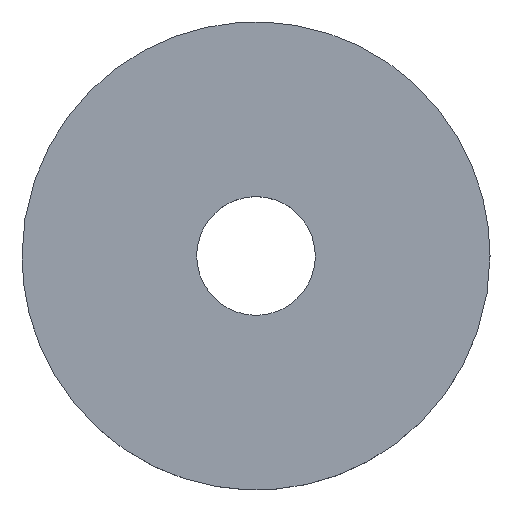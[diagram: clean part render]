
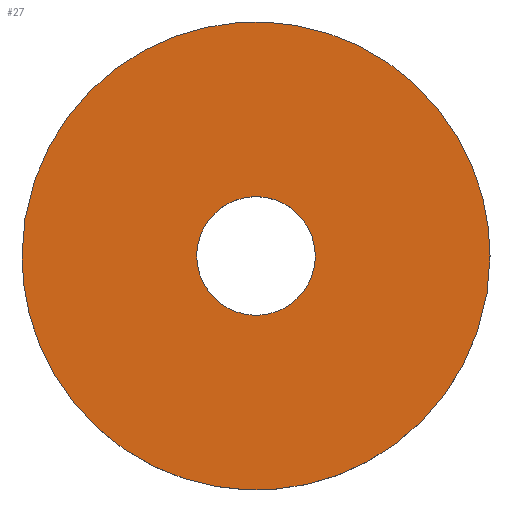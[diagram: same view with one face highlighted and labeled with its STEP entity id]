
A CAD part, top view. The second image highlights one B-rep face of the part: STEP entity #27.
In plain terms, the highlighted planar face has unit normal (0, 0, 1).
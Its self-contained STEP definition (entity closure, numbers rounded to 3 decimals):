
#24=FACE_BOUND('',#44,.T.);
#27=ADVANCED_FACE('',(#35,#24),#128,.T.);
#35=FACE_OUTER_BOUND('',#43,.T.);
#43=EDGE_LOOP('',(#56,#57));
#44=EDGE_LOOP('',(#58,#59));
#56=ORIENTED_EDGE('',*,*,#93,.F.);
#57=ORIENTED_EDGE('',*,*,#84,.F.);
#58=ORIENTED_EDGE('',*,*,#96,.F.);
#59=ORIENTED_EDGE('',*,*,#87,.F.);
#84=EDGE_CURVE('',#116,#121,#104,.T.);
#87=EDGE_CURVE('',#118,#123,#107,.T.);
#93=EDGE_CURVE('',#121,#116,#111,.T.);
#96=EDGE_CURVE('',#123,#118,#114,.T.);
#104=(
BOUNDED_CURVE()
B_SPLINE_CURVE(2,(#322,#323,#324,#325,#326),.UNSPECIFIED.,.F.,.F.)
B_SPLINE_CURVE_WITH_KNOTS((3,2,3),(-235.619,-176.715,
-117.81),.UNSPECIFIED.)
CURVE()
GEOMETRIC_REPRESENTATION_ITEM()
RATIONAL_B_SPLINE_CURVE((1.,0.707,1.,0.707,1.))
REPRESENTATION_ITEM('')
);
#107=(
BOUNDED_CURVE()
B_SPLINE_CURVE(2,(#334,#335,#336,#337,#338),.UNSPECIFIED.,.F.,.F.)
B_SPLINE_CURVE_WITH_KNOTS((3,2,3),(0.,14.923,29.845),
 .UNSPECIFIED.)
CURVE()
GEOMETRIC_REPRESENTATION_ITEM()
RATIONAL_B_SPLINE_CURVE((1.,0.707,1.,0.707,1.))
REPRESENTATION_ITEM('')
);
#111=(
BOUNDED_CURVE()
B_SPLINE_CURVE(2,(#376,#377,#378,#379,#380),.UNSPECIFIED.,.F.,.F.)
B_SPLINE_CURVE_WITH_KNOTS((3,2,3),(-117.81,-58.905,
0.),.UNSPECIFIED.)
CURVE()
GEOMETRIC_REPRESENTATION_ITEM()
RATIONAL_B_SPLINE_CURVE((1.,0.707,1.,0.707,1.))
REPRESENTATION_ITEM('')
);
#114=(
BOUNDED_CURVE()
B_SPLINE_CURVE(2,(#388,#389,#390,#391,#392),.UNSPECIFIED.,.F.,.F.)
B_SPLINE_CURVE_WITH_KNOTS((3,2,3),(29.845,44.768,59.69),
 .UNSPECIFIED.)
CURVE()
GEOMETRIC_REPRESENTATION_ITEM()
RATIONAL_B_SPLINE_CURVE((1.,0.707,1.,0.707,1.))
REPRESENTATION_ITEM('')
);
#116=VERTEX_POINT('',#312);
#118=VERTEX_POINT('',#314);
#121=VERTEX_POINT('',#317);
#123=VERTEX_POINT('',#319);
#128=PLANE('',#154);
#154=AXIS2_PLACEMENT_3D('',#174,#159,$);
#159=DIRECTION('',(0.,0.,1.));
#174=CARTESIAN_POINT('',(46.875,-46.875,-13.));
#312=CARTESIAN_POINT('',(37.5,0.,-13.));
#314=CARTESIAN_POINT('',(9.5,0.,-13.));
#317=CARTESIAN_POINT('',(-37.5,0.,-13.));
#319=CARTESIAN_POINT('',(-9.5,0.,-13.));
#322=CARTESIAN_POINT('',(37.5,0.,-13.));
#323=CARTESIAN_POINT('',(37.5,-37.5,-13.));
#324=CARTESIAN_POINT('',(0.,-37.5,-13.));
#325=CARTESIAN_POINT('',(-37.5,-37.5,-13.));
#326=CARTESIAN_POINT('',(-37.5,0.,-13.));
#334=CARTESIAN_POINT('',(9.5,0.,-13.));
#335=CARTESIAN_POINT('',(9.5,9.5,-13.));
#336=CARTESIAN_POINT('',(0.,9.5,-13.));
#337=CARTESIAN_POINT('',(-9.5,9.5,-13.));
#338=CARTESIAN_POINT('',(-9.5,0.,-13.));
#376=CARTESIAN_POINT('',(-37.5,0.,-13.));
#377=CARTESIAN_POINT('',(-37.5,37.5,-13.));
#378=CARTESIAN_POINT('',(0.,37.5,-13.));
#379=CARTESIAN_POINT('',(37.5,37.5,-13.));
#380=CARTESIAN_POINT('',(37.5,0.,-13.));
#388=CARTESIAN_POINT('',(-9.5,0.,-13.));
#389=CARTESIAN_POINT('',(-9.5,-9.5,-13.));
#390=CARTESIAN_POINT('',(0.,-9.5,-13.));
#391=CARTESIAN_POINT('',(9.5,-9.5,-13.));
#392=CARTESIAN_POINT('',(9.5,0.,-13.));
